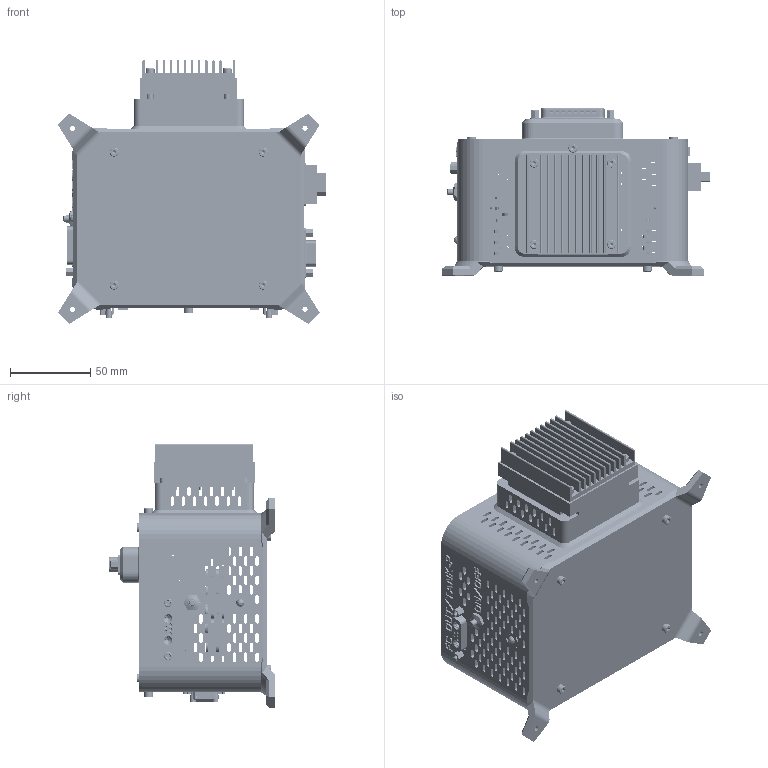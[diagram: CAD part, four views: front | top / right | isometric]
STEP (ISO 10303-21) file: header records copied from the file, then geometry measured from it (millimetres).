
FILE_DESCRIPTION (( 'STEP AP203' ), '1' );
FILE_NAME ('PEM_EC Assembly_External Download.STEP', '2024-01-30T08:17:58', ( '' ), ( '' ), 'SwSTEP 2.0', 'SolidWorks 2021', '' );
FILE_SCHEMA (( 'CONFIG_CONTROL_DESIGN' ));
Length unit declared in the file: millimetre
Products named in the file (27): PEM_FMS Housing_Jan 2024; Standoff Nut_20+6; pan head tapping screw_am_PHT 2.5x10x9.1-slot-D-N; socket head cap screw_am_B18.3.1M - 2 x 0.4 x 6 Hex SHCS -- 6NHX; NQ90W90HGC26NRF-G; D Sub 17W2 (Male)_09693115172; Standoff Nut_DB; D Sub Contact (Male)_09692817423; LED (5mm); Heatsink; Common_4 Pin Molex_530470410_Housing; XT60 Female; Common_6 Pin Molex_530470610_Housing; D Sub Contact (Female)_09691817423; Protium_Feather V1_2; D Sub 2W2 (Female)_1727040042; OnOff&Resert button; PEM_FMS Housing Cover_Jan 2024; Header & Wire Housing Vertical 6P_530470610; D Sub 7W2 (Female)_09692015072; socket head cap screw_am_B18.3.1M - 3 x 0.5 x 25 Hex SHCS -- 18NHX; Common_LED Holder Housing_Jun 2022; LED Mounting Clips (5mm)_C-174; socket head cap screw_am_B18.3.1M - 3 x 0.5 x 10 Hex SHCS -- 10NHX; PEM_EC Assembly_External Download; Header & Wire Housing Vertical 4P_530470410; socket head cap screw_am_B18.3.1M - 3 x 0.5 x 12 Hex SHCS -- 12NHX
Assembly tree (52 placements, depth 2):
  PEM_EC Assembly_External Download
    Common_LED Holder Housing_Jun 2022
    Common_6 Pin Molex_530470610_Housing
    Common_4 Pin Molex_530470410_Housing
    PEM_FMS Housing_Jan 2024
    PEM_FMS Housing Cover_Jan 2024
    Header & Wire Housing Vertical 6P_530470610
    Header & Wire Housing Vertical 4P_530470410
    D Sub 2W2 (Female)_1727040042
    D Sub Contact (Female)_09691817423  x3
    D Sub Contact (Male)_09692817423  x3
    LED Mounting Clips (5mm)_C-174
    XT60 Female
    D Sub 17W2 (Male)_09693115172
    NQ90W90HGC26NRF-G
    D Sub 7W2 (Female)_09692015072
    LED (5mm)
    OnOff&Resert button
    Standoff Nut_20+6  x4
    socket head cap screw_am_B18.3.1M - 3 x 0.5 x 10 Hex SHCS -- 10NHX  x6
    socket head cap screw_am_B18.3.1M - 2 x 0.4 x 6 Hex SHCS -- 6NHX  x4
    socket head cap screw_am_B18.3.1M - 3 x 0.5 x 12 Hex SHCS -- 12NHX  x4
    socket head cap screw_am_B18.3.1M - 3 x 0.5 x 25 Hex SHCS -- 18NHX  x4
    Standoff Nut_DB  x6
    pan head tapping screw_am_PHT 2.5x10x9.1-slot-D-N
    Heatsink
    Protium_Feather V1_2
Bounding box: 167.39 x 104.2 x 164.79 mm (x, y, z)
Volume: 295399.1 mm3; surface area: 244793.6 mm2
Topology: 57 solids, 58 shells, 5959 faces, 16206 edges, 10660 vertices
Faces by surface type: plane 3598, cylinder 1452, bspline 540, cone 294, torus 75
Full cylindrical faces by diameter (mm): 0.4 x1, 1 x24, 1.15 x15, 1.2 x5, 1.4 x4, 1.5 x20, 2 x11, 2.4 x2, 2.5 x4, 2.6 x10, 2.7 x2, 2.9 x2, 3 x36, 3.1 x6, 3.2 x14, 3.3 x8, 3.5 x8, 3.58 x3, 3.8 x4, 3.85 x2, 4 x1, 4.05 x2, 4.1 x2, 4.15 x8, 4.2 x4, 4.5 x2, 4.76 x6, 4.8 x6, 4.85 x2, 5 x2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
Entity records: 199819 total; most frequent: CARTESIAN_POINT 63160, ORIENTED_EDGE 28520, DIRECTION 25130, EDGE_CURVE 14260, LINE 9610, VECTOR 9610, VERTEX_POINT 9572, AXIS2_PLACEMENT_3D 7760
